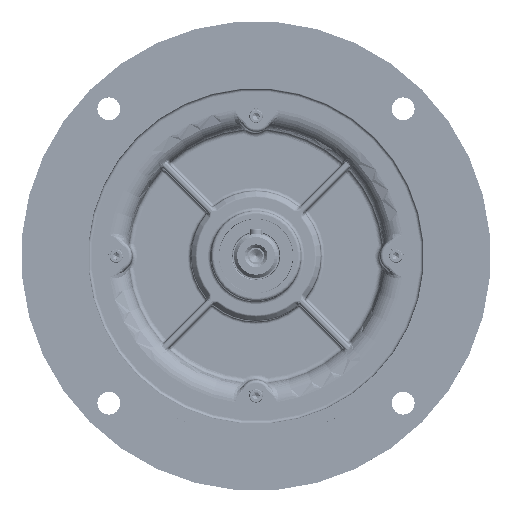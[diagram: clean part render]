
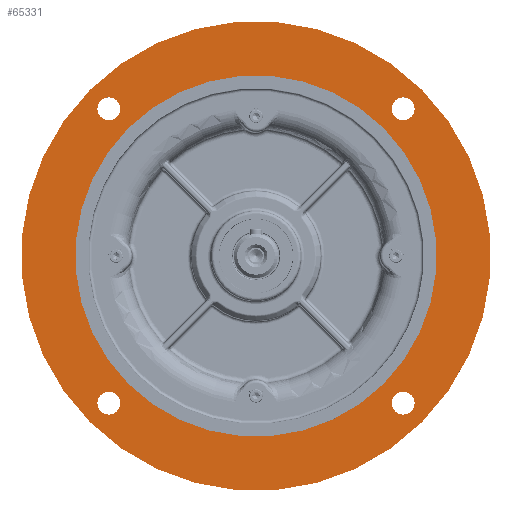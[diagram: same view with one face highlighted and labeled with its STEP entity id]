
A CAD part, top view. The second image highlights one B-rep face of the part: STEP entity #65331.
In plain terms, the highlighted planar face has unit normal (0, 0, 1).
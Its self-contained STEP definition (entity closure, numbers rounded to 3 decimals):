
#56647=FACE_BOUND('',#87275,.T.);
#56648=FACE_BOUND('',#87276,.T.);
#56649=FACE_BOUND('',#87277,.T.);
#56650=FACE_BOUND('',#87278,.T.);
#56651=FACE_BOUND('',#87279,.T.);
#56652=FACE_BOUND('',#87280,.T.);
#58601=PLANE('',#227765);
#65331=ADVANCED_FACE('',(#56647,#56648,#56649,#56650,#56651,#56652),#58601,
 .T.);
#87275=EDGE_LOOP('',(#101717));
#87276=EDGE_LOOP('',(#101718));
#87277=EDGE_LOOP('',(#101719));
#87278=EDGE_LOOP('',(#101720));
#87279=EDGE_LOOP('',(#101721));
#87280=EDGE_LOOP('',(#101722));
#101717=ORIENTED_EDGE('',*,*,#167775,.F.);
#101718=ORIENTED_EDGE('',*,*,#167776,.F.);
#101719=ORIENTED_EDGE('',*,*,#167777,.F.);
#101720=ORIENTED_EDGE('',*,*,#167778,.F.);
#101721=ORIENTED_EDGE('',*,*,#167772,.T.);
#101722=ORIENTED_EDGE('',*,*,#167774,.T.);
#151585=VERTEX_POINT('',#305485);
#151587=VERTEX_POINT('',#305490);
#151588=VERTEX_POINT('',#305493);
#151589=VERTEX_POINT('',#305495);
#151590=VERTEX_POINT('',#305497);
#151591=VERTEX_POINT('',#305499);
#167772=EDGE_CURVE('',#151585,#151585,#210564,.T.);
#167774=EDGE_CURVE('',#151587,#151587,#210566,.T.);
#167775=EDGE_CURVE('',#151588,#151588,#210567,.T.);
#167776=EDGE_CURVE('',#151589,#151589,#210568,.T.);
#167777=EDGE_CURVE('',#151590,#151590,#210569,.T.);
#167778=EDGE_CURVE('',#151591,#151591,#210570,.T.);
#210564=CIRCLE('',#227756,149.5);
#210566=CIRCLE('',#227759,115.);
#210567=CIRCLE('',#227761,7.25);
#210568=CIRCLE('',#227762,7.25);
#210569=CIRCLE('',#227763,7.25);
#210570=CIRCLE('',#227764,7.25);
#227756=AXIS2_PLACEMENT_3D('',#305484,#248513,#248514);
#227759=AXIS2_PLACEMENT_3D('',#305489,#248519,#248520);
#227761=AXIS2_PLACEMENT_3D('',#305492,#248523,#248524);
#227762=AXIS2_PLACEMENT_3D('',#305494,#248525,#248526);
#227763=AXIS2_PLACEMENT_3D('',#305496,#248527,#248528);
#227764=AXIS2_PLACEMENT_3D('',#305498,#248529,#248530);
#227765=AXIS2_PLACEMENT_3D('',#305500,#248531,#248532);
#248513=DIRECTION('',(0.,0.,1.));
#248514=DIRECTION('',(0.707,0.707,0.));
#248519=DIRECTION('',(0.,0.,-1.));
#248520=DIRECTION('',(0.707,0.707,0.));
#248523=DIRECTION('',(0.,0.,1.));
#248524=DIRECTION('',(-0.707,-0.707,0.));
#248525=DIRECTION('',(0.,0.,1.));
#248526=DIRECTION('',(-0.707,0.707,0.));
#248527=DIRECTION('',(0.,0.,1.));
#248528=DIRECTION('',(0.707,0.707,0.));
#248529=DIRECTION('',(0.,0.,1.));
#248530=DIRECTION('',(0.707,-0.707,0.));
#248531=DIRECTION('',(0.,0.,1.));
#248532=DIRECTION('',(0.707,-0.707,0.));
#305484=CARTESIAN_POINT('',(0.,0.,16.));
#305485=CARTESIAN_POINT('',(105.712,105.712,16.));
#305489=CARTESIAN_POINT('',(0.,0.,16.));
#305490=CARTESIAN_POINT('',(81.317,81.317,16.));
#305492=CARTESIAN_POINT('',(93.692,-93.692,16.));
#305493=CARTESIAN_POINT('',(88.565,-98.818,16.));
#305494=CARTESIAN_POINT('',(-93.692,-93.692,16.));
#305495=CARTESIAN_POINT('',(-98.818,-88.565,16.));
#305496=CARTESIAN_POINT('',(-93.692,93.692,16.));
#305497=CARTESIAN_POINT('',(-88.565,98.818,16.));
#305498=CARTESIAN_POINT('',(93.692,93.692,16.));
#305499=CARTESIAN_POINT('',(98.818,88.565,16.));
#305500=CARTESIAN_POINT('',(0.,0.,16.));
